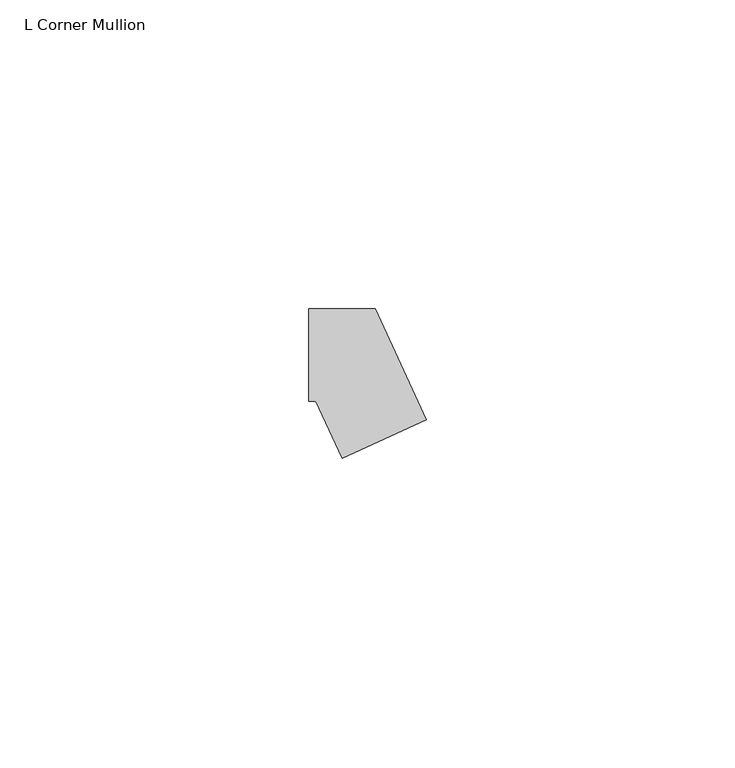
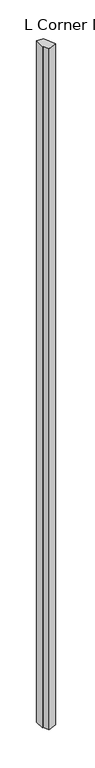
"""IFC4 building model written with IfcOpenShell, lengths in millimetres: member geometry, L Corner Mullion : ARQ_HERR_15X6mm."""

from ifc_helpers import new_model, si_unit, frame, origin, place, context, project, spatial, polyline, outline, extrude, source, transform, mapped, element, save


def l_corner_mullion_7e269581(model_context):
    return source(origin(), model_context, "Body", "SweptSolid", [
        extrude(outline(polyline([(-0.5775282, -16.7605627), (-4.8156946, -7.5), (-6.0, -7.5), (-6.0, 7.5), (4.8156946, 7.5), (13.0619332, -10.5183601), (-0.5775282, -16.7605627)])), frame((0.0, 0.0, -1124.9134125), z_axis=(0.0, 0.0, 1.0), x_axis=(1.0, 0.0, 0.0)), (0.0, 0.0, 1.0), 1124.9134125),
    ])


if __name__ == "__main__":
    model = new_model("IFC4")
    model_context = context("Model", 3, world=origin())
    ifc_project = project(units=[si_unit("LENGTHUNIT", "METRE", prefix="MILLI")], contexts=[model_context])
    site = spatial("IfcSite", under=ifc_project)
    building = spatial("IfcBuilding", under=site)
    placement = place(None, origin())
    l_corner_mullion_shape = l_corner_mullion_7e269581(model_context)
    element("IfcMember", 1, ObjectType="L Corner Mullion : ARQ_HERR_15X6mm", at=placement, inside=building, context=model_context, shape_type="MappedRepresentation", body=[
        mapped(l_corner_mullion_shape, transform((0.0, 0.0, 0.0), x_axis=(1.0, 0.0, 0.0), y_axis=(0.0, 1.0, 0.0), z_axis=(0.0, 0.0, 1.0))),
    ])
    save(model, "model.ifc")
